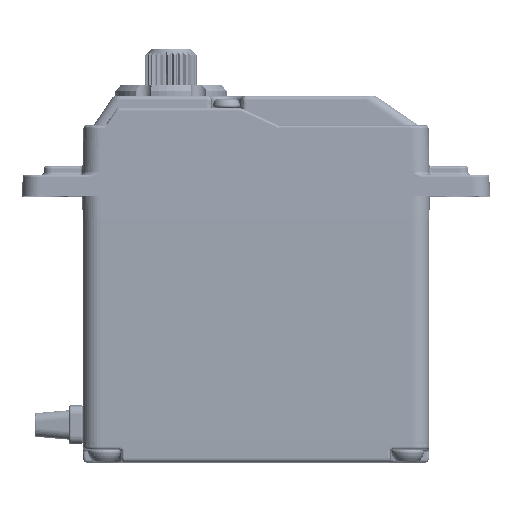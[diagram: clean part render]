
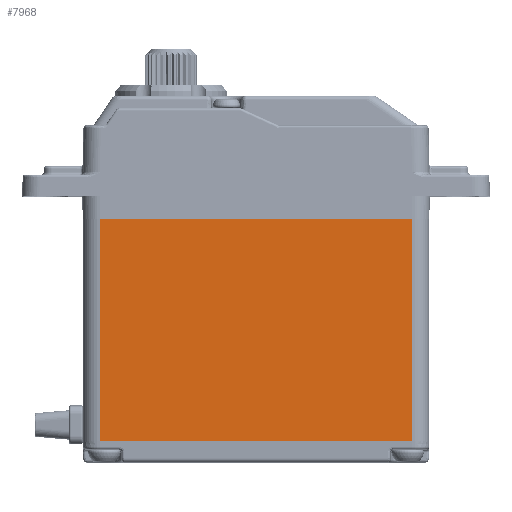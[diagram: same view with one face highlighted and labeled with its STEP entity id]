
A CAD part, top view. The second image highlights one B-rep face of the part: STEP entity #7968.
In plain terms, the highlighted planar face has unit normal (0, 0, 1).
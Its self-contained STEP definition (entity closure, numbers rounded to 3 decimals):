
#105=DIRECTION('',(1.,0.,0.));
#106=VECTOR('',#105,36.);
#107=CARTESIAN_POINT('',(-18.,0.,10.));
#108=LINE('',#107,#106);
#255=DIRECTION('',(0.,-1.,0.));
#256=VECTOR('',#255,25.6);
#257=CARTESIAN_POINT('',(-18.,25.6,10.));
#258=LINE('',#257,#256);
#262=DIRECTION('',(0.,-1.,0.));
#263=VECTOR('',#262,25.6);
#264=CARTESIAN_POINT('',(18.,25.6,10.));
#265=LINE('',#264,#263);
#322=DIRECTION('',(1.,0.,0.));
#323=VECTOR('',#322,36.);
#324=CARTESIAN_POINT('',(-18.,25.6,10.));
#325=LINE('',#324,#323);
#7113=CARTESIAN_POINT('',(-18.,0.,10.));
#7115=VERTEX_POINT('',#7113);
#7119=CARTESIAN_POINT('',(-18.,25.6,10.));
#7120=VERTEX_POINT('',#7119);
#7130=CARTESIAN_POINT('',(18.,0.,10.));
#7132=VERTEX_POINT('',#7130);
#7133=CARTESIAN_POINT('',(18.,25.6,10.));
#7134=VERTEX_POINT('',#7133);
#7955=CARTESIAN_POINT('',(-20.,0.,10.));
#7956=DIRECTION('',(0.,0.,1.));
#7957=DIRECTION('',(1.,0.,0.));
#7958=AXIS2_PLACEMENT_3D('',#7955,#7956,#7957);
#7959=PLANE('',#7958);
#7961=ORIENTED_EDGE('',*,*,#7960,.F.);
#7963=ORIENTED_EDGE('',*,*,#7962,.T.);
#7964=ORIENTED_EDGE('',*,*,#7947,.T.);
#7965=ORIENTED_EDGE('',*,*,#7806,.F.);
#7966=EDGE_LOOP('',(#7961,#7963,#7964,#7965));
#7967=FACE_OUTER_BOUND('',#7966,.F.);
#7806=EDGE_CURVE('',#7115,#7132,#108,.T.);
#7947=EDGE_CURVE('',#7134,#7132,#265,.T.);
#7960=EDGE_CURVE('',#7120,#7115,#258,.T.);
#7962=EDGE_CURVE('',#7120,#7134,#325,.T.);
#7968=ADVANCED_FACE('',(#7967),#7959,.T.);
